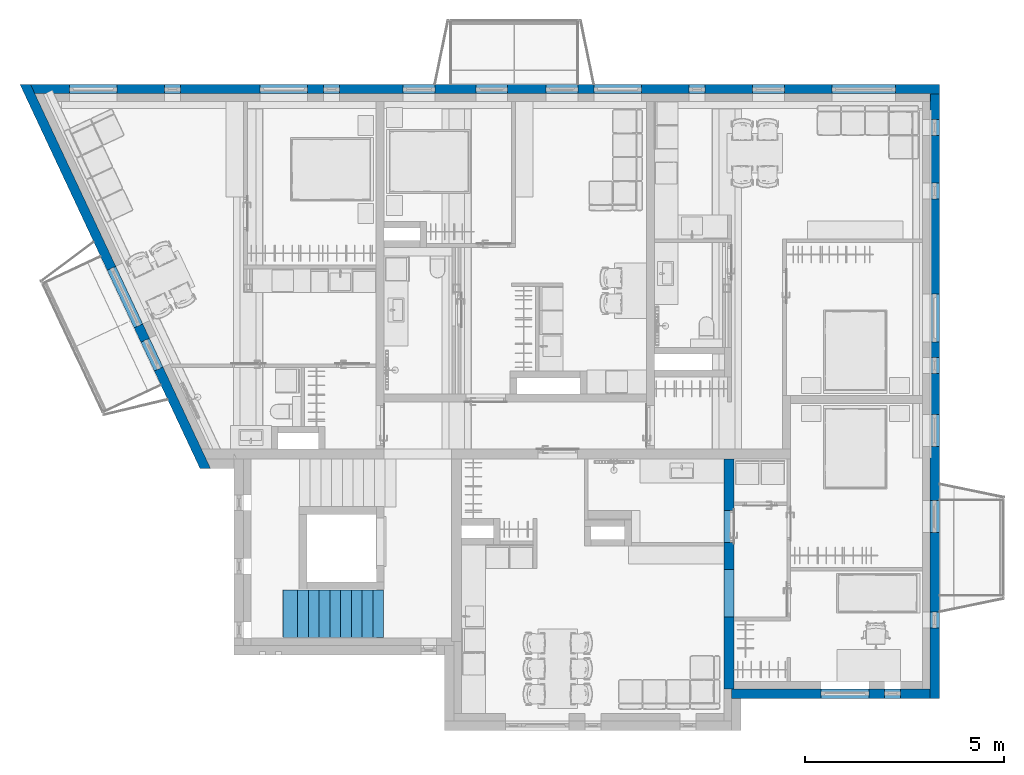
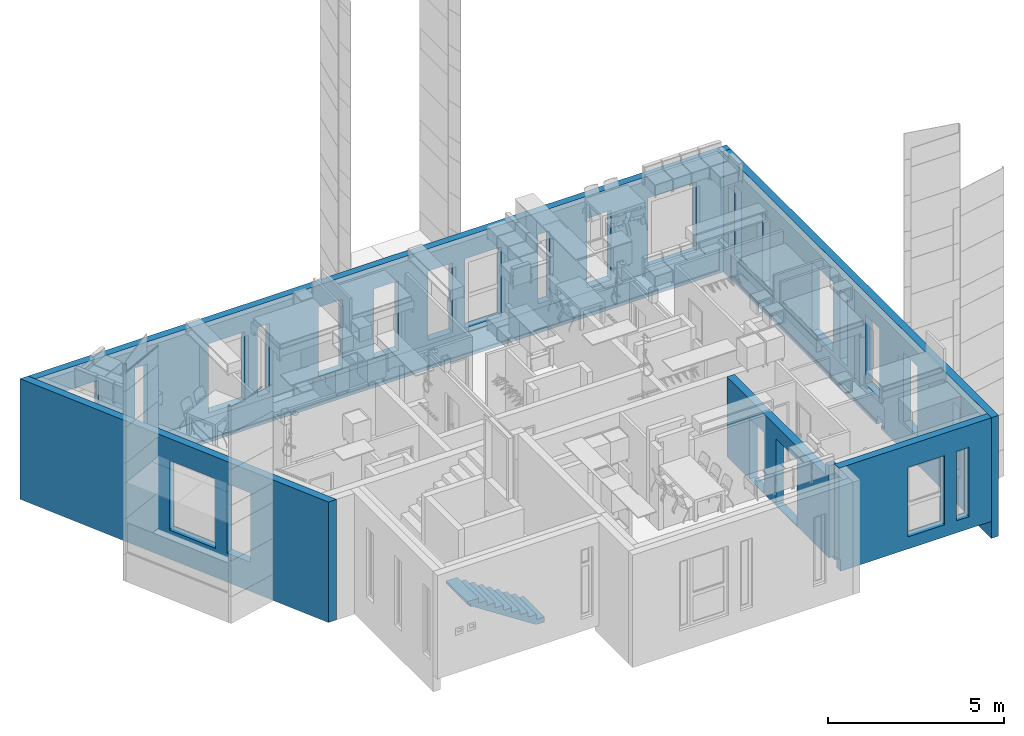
# One storey, part 41 of 125: 5 walls, 1 stair flight, 1 element without a shape of its own.
"""IFC2X3 building model written with IfcOpenShell, lengths in millimetres."""

from ifc_helpers import new_model, entity, si_unit, converted_unit, direction, frame, origin, place, context, subcontext, project, spatial, faceted_brep, material, layer, layer_set, type_object, element, aggregate, save


model = new_model("IFC2X3")

# Units and contexts
model_context = context("Model", 3, precision=0.01, world=origin(), true_north=direction((6.123233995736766e-17, 1.0)))
plan_context = context("Plan", 3, precision=0.01, world=origin(), true_north=direction((6.123233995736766e-17, 1.0)))
body_context = subcontext(model_context, "Body", "Model", "MODEL_VIEW")
ifc_project = project(units=[si_unit("LENGTHUNIT", "METRE", prefix="MILLI"), converted_unit("PLANEANGLEUNIT", "DEGREE", entity("IfcPlaneAngleMeasure", 0.017453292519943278), si_unit("PLANEANGLEUNIT", "RADIAN"), dimensions=[0, 0, 0, 0, 0, 0, 0]), si_unit("AREAUNIT", "SQUARE_METRE")], contexts=[model_context, plan_context])

# Site, building, storey
site_placement = place(None, origin())
site = spatial("IfcSite", under=ifc_project, at=site_placement, Name="Default", CompositionType="ELEMENT")
building_placement = place(site_placement, origin())
building = spatial("IfcBuilding", under=site, at=building_placement, CompositionType="ELEMENT")
storey_placement = place(building_placement, frame((0.0, 0.0, 3125.0)))
storey = spatial("IfcBuildingStorey", under=building, at=storey_placement, Name="2K", CompositionType="ELEMENT", Elevation=3125.0)

# Walls
ifc_material_1 = material(Name="_K. Väisviimistlus. Krohv. Valge")
ifc_layer_1 = layer(ifc_material_1, 5.0)
ifc_material_2 = material(Name="_K. Müüritis. Väikeplokk. Betoon-õõnesplokk")
ifc_layer_2 = layer(ifc_material_2, 240.0)
ifc_layer_3 = layer(ifc_material_1, 5.0)
ifc_layer_set_1 = layer_set([ifc_layer_1, ifc_layer_2, ifc_layer_3], Name="Basic Wall:SS-01.240")
wall_type_1 = type_object("IfcWallType", Name="Basic Wall:SS-01.240", PredefinedType="STANDARD", material=ifc_layer_set_1)
wall_1_placement = place(storey_placement, frame((12024.993534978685, 610.0, -155.0), z_axis=(0.0, 0.0, 1.0), x_axis=(0.0, 1.0, 0.0)))
element("IfcWall", 1, at=wall_1_placement, inside=storey, type_object=wall_type_1, Name="Basic Wall:SS-01.240", ObjectType="Basic Wall:SS-01.240", context=body_context, shape_type="Brep", body=[
    faceted_brep([(190.0, -125.0, 3325.0), (0.0, -125.0, 3325.0), (0.0, -125.0, 155.0), (0.0, -125.0, 0.0), (190.0, -125.0, 0.0), (190.0, -125.0, 134.99980163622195), (1717.9999594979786, -125.0, 134.99980163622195), (1809.9999594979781, -125.0, 134.99980163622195), (4617.999959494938, -125.0, 134.99980163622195), (4709.999959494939, -125.0, 134.99980163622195), (5789.999959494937, -125.0, 134.99980163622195), (5789.999959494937, -125.0, 2905.0), (4709.999959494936, -125.0, 2905.0), (4617.999959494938, -125.0, 2905.0), (1809.9999594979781, -125.0, 2905.0), (1717.9999594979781, -125.0, 2905.0), (190.0, -125.0, 2905.0), (1809.9999594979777, -125.0, 2455.0), (3009.9999594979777, -125.0, 2455.0), (3009.9999594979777, -125.0, 155.0), (1809.9999594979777, -125.0, 155.0), (3689.9976318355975, -125.0, 155.0), (3689.9976318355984, -125.0, 2255.0), (4489.997631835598, -125.0, 2255.0), (4489.997631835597, -125.0, 155.0), (0.0, 125.0, 3325.0), (190.0, 125.0, 3325.0), (190.0, 125.0, 2905.0), (3600.0, 125.0, 2905.0), (3692.0, 125.0, 2905.0), (5789.999959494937, 125.0, 2905.0), (5789.999959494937, 125.0, 134.99980163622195), (3692.0, 125.0, 134.99980163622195), (3600.0, 125.0, 134.99980163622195), (0.0, 125.0, 134.99980163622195), (0.0, 125.0, 155.0), (3009.999959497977, 125.0, 2455.0), (1809.9999594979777, 125.0, 2455.0), (1809.9999594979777, 125.0, 155.0), (3009.999959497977, 125.0, 155.0), (3689.997631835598, 125.0, 2255.0), (3689.997631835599, 125.0, 155.0), (4489.997631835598, 125.0, 155.0), (4489.997631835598, 125.0, 2255.0), (0.0, -65.00646502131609, 0.0), (190.0, -65.00646502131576, 0.0), (0.0, -65.00646502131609, 3325.0), (0.0, -120.0, 3325.0), (0.0, -65.00646502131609, 134.99980163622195), (190.0, -65.00646502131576, 134.99980163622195)], [[[0, 1, 2, 3, 4, 5, 6, 7, 8, 9, 10, 11, 12, 13, 14, 15, 16], [17, 18, 19, 20], [21, 22, 23, 24]], [[25, 26, 27, 28, 29, 30, 31, 32, 33, 34, 35], [36, 37, 38, 39], [40, 41, 42, 43]], [[4, 3, 44, 45]], [[25, 46, 47, 1, 0, 26]], [[26, 0, 16, 27]], [[11, 30, 29, 28, 27, 16, 15, 14, 13, 12]], [[1, 47, 46, 25, 35, 34, 48, 44, 3, 2]], [[17, 37, 36, 18]], [[19, 39, 38, 20]], [[37, 17, 20, 38]], [[18, 36, 39, 19]], [[21, 41, 40, 22]], [[41, 21, 24, 42]], [[42, 24, 23, 43]], [[22, 40, 43, 23]], [[30, 11, 10, 31]], [[5, 49, 48, 34, 33, 32, 31, 10, 9, 8, 7, 6]], [[49, 5, 4, 45]], [[48, 49, 45, 44]]]),
])
ifc_layer_4 = layer(ifc_material_1, 10.0)
ifc_material_3 = material(Name="_K. Soojustus. EPS Silver")
ifc_layer_5 = layer(ifc_material_3, 230.0)
ifc_layer_set_2 = layer_set([ifc_layer_4, ifc_layer_5], Name="Basic Wall:VS-01")
wall_type_2 = type_object("IfcWallType", Name="Basic Wall:VS-01", PredefinedType="STANDARD", material=ifc_layer_set_2)
wall_2_placement = place(storey_placement, frame((-1131.657141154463, 6114.067894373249, -1004.9997978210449), z_axis=(0.0, 0.0, 1.0), x_axis=(-0.4244338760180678, 0.905458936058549, 0.0)))
element("IfcWall", 2, at=wall_2_placement, inside=storey, type_object=wall_type_2, Name="Basic Wall:VS-01", ObjectType="Basic Wall:VS-01", context=body_context, shape_type="Brep", body=[
    faceted_brep([(0.0, -120.0, 0.0), (10674.145072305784, -120.0, 0.0), (10674.145072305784, -120.0, 4174.999797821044), (10420.130239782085, -120.0, 4174.999797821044), (10409.08611662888, -120.0, 4174.999797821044), (535.639972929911, -120.0, 4174.999797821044), (265.05895567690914, -120.0, 4174.999797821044), (0.0, -120.0, 4174.999797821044), (5618.086116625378, -120.0, 3404.9997978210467), (5618.086116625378, -120.0, 1004.9997978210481), (4018.0861166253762, -120.0, 1004.9997978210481), (4018.0861166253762, -120.0, 3404.9997978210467), (3618.0861166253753, -120.0, 3404.9997978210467), (3618.0861166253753, -120.0, 1004.9997978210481), (2818.0861166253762, -120.0, 1004.9997978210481), (2818.0861166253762, -120.0, 3404.9997978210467), (10309.222399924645, -120.0, 849.9997978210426), (10309.222399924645, -120.0, 99.99979782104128), (318.0375134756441, -120.0, 99.99979782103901), (318.0375134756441, -120.0, 849.9997978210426), (535.6399729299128, -120.0, 849.9997978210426), (10786.645072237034, 120.0, 0.0), (112.4999999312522, 120.0, 0.0), (112.4999999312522, 120.0, 4174.999797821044), (2818.1112739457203, 120.0, 4174.999797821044), (3618.111273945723, 120.0, 4174.999797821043), (4018.1112739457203, 120.0, 4174.999797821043), (5618.11127394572, 120.0, 4174.999797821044), (10786.645072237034, 120.0, 4174.999797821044), (5618.0861166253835, 120.0, 1004.9997978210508), (5618.0861166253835, 120.0, 3404.9997978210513), (4018.0861166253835, 120.0, 3404.9997978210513), (4018.0861166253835, 120.0, 1004.9997978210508), (3618.086116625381, 120.0, 1004.9997978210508), (3618.086116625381, 120.0, 3404.9997978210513), (2818.086116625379, 120.0, 3404.9997978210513), (2818.086116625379, 120.0, 1004.9997978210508), (5618.086116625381, 40.0, 1004.9997978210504), (5618.086116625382, 30.0, 1004.9997978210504), (4018.0861166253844, 30.0, 1004.999797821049), (4018.0861166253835, 40.0, 1004.999797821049), (3618.086116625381, 40.0, 1004.9997978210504), (3618.0861166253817, 30.0, 1004.9997978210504), (2818.08611662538, 30.0, 1004.999797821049), (2818.0861166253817, 40.0, 1004.999797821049), (10309.222463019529, -85.00078220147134, 109.99979782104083), (10309.222444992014, -95.00078220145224, 99.99979782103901), (10309.222463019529, -85.00078220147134, 849.9997978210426), (318.03757660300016, -84.98277058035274, 109.99979782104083), (318.03757660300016, -84.98277058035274, 849.9997978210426), (318.0375585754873, -94.98277058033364, 99.99979782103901)], [[[0, 1, 2, 3, 4, 5, 6, 7], [8, 9, 10, 11], [12, 13, 14, 15], [16, 17, 18, 19, 20]], [[21, 22, 23, 24, 25, 26, 27, 28], [29, 30, 31, 32], [33, 34, 35, 36]], [[1, 0, 22, 21]], [[7, 6, 5, 4, 3, 2, 28, 27, 26, 25, 24, 23]], [[2, 1, 21, 28]], [[0, 7, 23, 22]], [[30, 29, 37, 38, 9, 8]], [[30, 8, 11, 31]], [[31, 11, 10, 39, 40, 32]], [[37, 29, 32, 40, 39, 10, 9, 38]], [[34, 33, 41, 42, 13, 12]], [[34, 12, 15, 35]], [[35, 15, 14, 43, 44, 36]], [[41, 33, 36, 44, 43, 14, 13, 42]], [[45, 46, 17, 16, 47]], [[48, 49, 19, 18, 50]], [[46, 50, 18, 17]], [[46, 45, 48, 50]], [[45, 47, 49, 48]], [[49, 47, 16, 20, 19]]]),
])
wall_3_placement = place(storey_placement, frame((-5553.470835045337, 15710.0, -1010.0)))
element("IfcWall", 3, at=wall_3_placement, inside=storey, type_object=wall_type_2, Name="Basic Wall:VS-01", ObjectType="Basic Wall:VS-01", context=body_context, shape_type="Brep", body=[
    faceted_brep([(112.49999993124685, -120.0, 0.0), (22643.470835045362, -120.0, 0.0), (22883.470835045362, -120.0, 0.0), (22883.470835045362, -120.0, 4180.0), (22653.470835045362, -120.0, 4180.0), (22653.470835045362, -120.0, 855.0002021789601), (22643.470835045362, -120.0, 855.0002023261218), (22523.47083506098, -120.0, 855.0002040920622), (22523.47083506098, -120.0, 105.0), (779.891158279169, -120.0, 105.0), (779.891158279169, -120.0, 855.0005240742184), (112.49999993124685, -120.0, 855.0005338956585), (22883.470835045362, 120.0, 0.0), (0.0, 120.0, 0.0), (0.0, 120.0, 5.000202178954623), (0.0, 120.0, 4180.0), (498.4708350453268, 120.0, 4180.0), (898.4708350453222, 120.0, 4180.0), (2098.470835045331, 120.0, 4180.0), (3298.470835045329, 120.0, 4180.0), (6098.470835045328, 120.0, 4180.0), (7298.470835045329, 120.0, 4180.0), (7698.470835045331, 120.0, 4180.0), (8098.470835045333, 120.0, 4180.0), (9378.47083504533, 120.0, 4180.0), (10178.47083504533, 120.0, 4180.0), (11208.4708350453, 120.0, 4180.0), (12008.470835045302, 120.0, 4180.0), (12978.470835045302, 120.0, 4180.0), (13778.470835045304, 120.0, 4180.0), (14178.470835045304, 120.0, 4180.0), (15378.470835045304, 120.0, 4180.0), (17698.47083504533, 120.0, 4180.0), (18098.470835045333, 120.0, 4180.0), (18898.47083504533, 120.0, 4180.0), (20098.47083504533, 120.0, 4180.0), (20498.470835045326, 120.0, 4180.0), (20898.470835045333, 120.0, 4180.0), (22883.470835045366, 120.0, 4180.0), (3778.47083504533, 120.0, 1010.0), (3778.47083504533, 120.0, 3410.0), (3378.47083504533, 120.0, 3410.0), (3378.47083504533, 120.0, 1010.0), (6978.47083504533, 120.0, 1010.0), (6978.47083504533, 120.0, 3410.0), (5778.47083504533, 120.0, 3410.0), (5778.47083504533, 120.0, 1010.0), (2178.47083504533, 120.0, 1010.0), (2178.47083504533, 120.0, 3410.0), (978.4708350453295, 120.0, 3410.0), (978.4708350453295, 120.0, 1010.0), (7778.47083504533, 120.0, 1010.0), (7778.47083504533, 120.0, 3410.0), (7378.47083504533, 120.0, 3410.0), (7378.47083504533, 120.0, 1010.0), (10178.470835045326, 120.0, 1010.0), (10178.470835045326, 120.0, 3410.0), (9378.470835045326, 120.0, 3410.0), (9378.470835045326, 120.0, 1010.0), (12008.470835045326, 120.0, 1010.0), (12008.470835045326, 120.0, 3410.0), (11208.470835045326, 120.0, 3410.0), (11208.470835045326, 120.0, 1010.0), (13778.470835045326, 120.0, 1010.0), (13778.470835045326, 120.0, 3410.0), (12978.470835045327, 120.0, 3410.0), (12978.470835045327, 120.0, 1010.0), (15378.47083504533, 120.0, 1010.0), (15378.47083504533, 120.0, 3410.0), (14178.470835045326, 120.0, 3410.0), (14178.470835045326, 120.0, 1010.0), (16978.470835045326, 120.0, 1010.0), (16978.470835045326, 120.0, 3410.0), (16578.470835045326, 120.0, 3410.0), (16578.470835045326, 120.0, 1010.0), (18978.470835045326, 120.0, 1010.0), (18978.470835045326, 120.0, 3410.0), (18178.470835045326, 120.0, 3410.0), (18178.470835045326, 120.0, 1010.0), (21778.470835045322, 120.0, 1010.0), (21778.470835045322, 120.0, 3410.0), (20178.470835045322, 120.0, 3410.0), (20178.470835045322, 120.0, 1010.0), (107.81249993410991, -110.0, 4180.0), (317.65083984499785, -110.0, 4180.0), (498.47083504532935, -110.0, 4180.0), (898.4708350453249, -110.0, 4180.0), (2098.4708350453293, -110.0, 4180.0), (3298.4708350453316, -110.0, 4180.0), (6098.470835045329, -110.0, 4180.0), (7298.47083504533, -110.0, 4180.0), (7698.47083504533, -110.0, 4180.0), (8098.47083504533, -110.0, 4180.0), (9378.470835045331, -110.0, 4180.0), (10178.470835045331, -110.0, 4180.0), (11208.470835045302, -110.0, 4180.0), (12008.470835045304, -110.0, 4180.0), (12978.47083504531, -110.0, 4180.0), (13778.470835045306, -110.0, 4180.0), (14178.470835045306, -110.0, 4180.0), (15378.47083504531, -110.0, 4180.0), (17698.47083504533, -110.0, 4180.0), (18098.470835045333, -110.0, 4180.0), (18898.470835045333, -110.0, 4180.0), (20098.47083504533, -110.0, 4180.0), (20498.47083504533, -110.0, 4180.0), (20898.47083504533, -110.0, 4180.0), (22653.470835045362, -110.0, 4180.0), (107.81249993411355, -110.0, 855.0005338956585), (22653.470835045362, -110.0, 855.0002021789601), (317.6508398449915, -110.0, 855.0002021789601), (779.891158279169, -110.0, 855.0), (22523.47083506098, -110.0, 855.0002021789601), (3778.4708350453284, -110.0, 3410.0), (3778.470835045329, -110.0, 1010.0), (3378.4708350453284, -110.0, 1010.0), (3378.470835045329, -110.0, 3410.0), (6978.470835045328, -110.0, 3410.0), (6978.470835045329, -110.0, 1010.0), (5778.470835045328, -110.0, 1010.0), (5778.470835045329, -110.0, 3410.0), (2178.4708350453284, -110.0, 3410.0), (2178.470835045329, -110.0, 1010.0), (978.4708350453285, -110.0, 1010.0), (978.4708350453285, -110.0, 3410.0), (7778.470835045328, -110.0, 3410.0), (7778.470835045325, -110.0, 1010.0), (7378.470835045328, -110.0, 1010.0), (7378.470835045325, -110.0, 3410.0), (10178.470835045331, -110.0, 3410.0), (10178.470835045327, -110.0, 1010.0), (9378.47083504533, -110.0, 1010.0), (9378.470835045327, -110.0, 3410.0), (12008.47083504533, -110.0, 3410.0), (12008.470835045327, -110.0, 1010.0), (11208.470835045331, -110.0, 1010.0), (11208.470835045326, -110.0, 3410.0), (13778.470835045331, -110.0, 3410.0), (13778.470835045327, -110.0, 1010.0), (12978.470835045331, -110.0, 1010.0), (12978.470835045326, -110.0, 3410.0), (15378.470835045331, -110.0, 3410.0), (15378.470835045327, -110.0, 1010.0), (14178.470835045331, -110.0, 1010.0), (14178.470835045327, -110.0, 3410.0), (16978.470835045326, -110.0, 3410.0), (16978.470835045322, -110.0, 1010.0), (16578.470835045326, -110.0, 1010.0), (16578.470835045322, -110.0, 3410.0), (18978.470835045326, -110.0, 3410.0), (18978.47083504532, -110.0, 1010.0), (18178.470835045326, -110.0, 1010.0), (18178.47083504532, -110.0, 3410.0), (21778.470835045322, -110.0, 3410.0), (21778.47083504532, -110.0, 1010.0), (20178.470835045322, -110.0, 1010.0), (20178.47083504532, -110.0, 3410.0), (3778.470835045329, 40.0, 1010.0), (3778.470835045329, 30.0, 1010.0), (3378.470835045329, 30.0, 1010.0), (3378.470835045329, 40.0, 1010.0), (6978.470835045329, 40.0, 1010.0), (6978.470835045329, 30.0, 1010.0), (5778.470835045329, 30.0, 1010.0), (5778.47083504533, 40.0, 1010.0), (2178.4708350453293, 40.0, 1010.0), (2178.4708350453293, 30.0, 1010.0), (978.470835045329, 30.0, 1010.0), (978.4708350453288, 40.0, 1010.0), (7778.470835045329, 40.0, 1010.0), (7778.470835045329, 30.0, 1010.0), (7378.47083504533, 30.0, 1010.0), (7378.47083504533, 40.0, 1010.0), (10178.47083504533, 40.0, 1010.0), (10178.47083504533, 30.0, 1010.0), (9378.47083504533, 30.0, 1010.0), (9378.47083504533, 40.0, 1010.0), (12008.47083504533, 40.0, 1010.0), (12008.470835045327, 30.0, 1010.0), (11208.47083504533, 30.0, 1010.0), (11208.47083504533, 40.0, 1010.0), (13778.47083504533, 40.0, 1010.0), (13778.47083504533, 30.0, 1010.0), (12978.47083504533, 30.0, 1010.0), (12978.47083504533, 40.0, 1010.0), (15378.47083504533, 40.0, 1010.0), (15378.47083504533, 30.0, 1010.0), (14178.47083504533, 30.0, 1010.0), (14178.47083504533, 40.0, 1010.0), (16978.470835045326, 40.0, 1010.0), (16978.470835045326, 30.0, 1010.0), (16578.470835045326, 30.0, 1010.0), (16578.470835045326, 40.0, 1010.0), (18978.470835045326, 40.0, 1010.0), (18978.470835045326, 30.0, 1010.0), (18178.470835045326, 30.0, 1010.0), (18178.470835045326, 40.0, 1010.0), (21778.470835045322, 40.0, 1010.0), (21778.470835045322, 30.0, 1010.0), (20178.470835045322, 30.0, 1010.0), (20178.470835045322, 40.0, 1010.0), (22523.47083506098, -79.99974237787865, 855.0), (22523.47083506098, -79.99974237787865, 105.0), (779.8911582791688, -79.99974237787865, 105.0), (779.8911582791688, -79.99974237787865, 855.0)], [[[0, 1, 2, 3, 4, 5, 6, 7, 8, 9, 10, 11]], [[12, 13, 14, 15, 16, 17, 18, 19, 20, 21, 22, 23, 24, 25, 26, 27, 28, 29, 30, 31, 32, 33, 34, 35, 36, 37, 38], [39, 40, 41, 42], [43, 44, 45, 46], [47, 48, 49, 50], [51, 52, 53, 54], [55, 56, 57, 58], [59, 60, 61, 62], [63, 64, 65, 66], [67, 68, 69, 70], [71, 72, 73, 74], [75, 76, 77, 78], [79, 80, 81, 82]], [[2, 1, 0, 13, 12]], [[38, 37, 36, 35, 34, 33, 32, 31, 30, 29, 28, 27, 26, 25, 24, 23, 22, 21, 20, 19, 18, 17, 16, 15, 83, 84, 85, 86, 87, 88, 89, 90, 91, 92, 93, 94, 95, 96, 97, 98, 99, 100, 101, 102, 103, 104, 105, 106, 107, 4, 3]], [[15, 14, 13, 0, 11, 108, 83]], [[3, 2, 12, 38]], [[109, 107, 106, 105, 104, 103, 102, 101, 100, 99, 98, 97, 96, 95, 94, 93, 92, 91, 90, 89, 88, 87, 86, 85, 84, 83, 108, 110, 111, 112], [113, 114, 115, 116], [117, 118, 119, 120], [121, 122, 123, 124], [125, 126, 127, 128], [129, 130, 131, 132], [133, 134, 135, 136], [137, 138, 139, 140], [141, 142, 143, 144], [145, 146, 147, 148], [149, 150, 151, 152], [153, 154, 155, 156]], [[108, 11, 10, 111, 110]], [[107, 109, 5, 4]], [[157, 158, 114, 113, 40, 39]], [[41, 40, 113, 116]], [[159, 160, 42, 41, 116, 115]], [[158, 157, 39, 42, 160, 159, 115, 114]], [[161, 162, 118, 117, 44, 43]], [[45, 44, 117, 120]], [[163, 164, 46, 45, 120, 119]], [[164, 163, 119, 118, 162, 161, 43, 46]], [[165, 166, 122, 121, 48, 47]], [[49, 48, 121, 124]], [[167, 168, 50, 49, 124, 123]], [[168, 167, 123, 122, 166, 165, 47, 50]], [[52, 51, 169, 170, 126, 125]], [[53, 52, 125, 128]], [[54, 53, 128, 127, 171, 172]], [[169, 51, 54, 172, 171, 127, 126, 170]], [[56, 55, 173, 174, 130, 129]], [[57, 56, 129, 132]], [[58, 57, 132, 131, 175, 176]], [[173, 55, 58, 176, 175, 131, 130, 174]], [[60, 59, 177, 178, 134, 133]], [[61, 60, 133, 136]], [[62, 61, 136, 135, 179, 180]], [[177, 59, 62, 180, 179, 135, 134, 178]], [[64, 63, 181, 182, 138, 137]], [[65, 64, 137, 140]], [[66, 65, 140, 139, 183, 184]], [[181, 63, 66, 184, 183, 139, 138, 182]], [[68, 67, 185, 186, 142, 141]], [[69, 68, 141, 144]], [[70, 69, 144, 143, 187, 188]], [[185, 67, 70, 188, 187, 143, 142, 186]], [[72, 71, 189, 190, 146, 145]], [[73, 72, 145, 148]], [[74, 73, 148, 147, 191, 192]], [[189, 71, 74, 192, 191, 147, 146, 190]], [[76, 75, 193, 194, 150, 149]], [[77, 76, 149, 152]], [[78, 77, 152, 151, 195, 196]], [[193, 75, 78, 196, 195, 151, 150, 194]], [[80, 79, 197, 198, 154, 153]], [[81, 80, 153, 156]], [[82, 81, 156, 155, 199, 200]], [[197, 79, 82, 200, 199, 155, 154, 198]], [[201, 202, 8, 7, 112]], [[203, 204, 111, 10, 9]], [[204, 201, 112, 111]], [[202, 203, 9, 8]], [[202, 201, 204, 203]], [[5, 109, 112, 7, 6]]]),
])
wall_4_placement = place(storey_placement, frame((17210.0, 15590.0, -1010.0), z_axis=(0.0, 0.0, 1.0), x_axis=(0.0, -1.0, 0.0)))
element("IfcWall", 4, at=wall_4_placement, inside=storey, type_object=wall_type_2, Name="Basic Wall:VS-01", ObjectType="Basic Wall:VS-01", context=body_context, shape_type="Brep", body=[
    faceted_brep([(1040.0, -120.0, 3410.0), (1040.0, -120.0, 1010.0), (640.0, -120.0, 1010.0), (640.0, -120.0, 3410.0), (2640.0, -120.0, 3410.0), (2640.0, -120.0, 1010.0), (2240.0, -120.0, 1010.0), (2240.0, -120.0, 3410.0), (7040.0, -120.0, 3410.0), (7040.0, -120.0, 1010.0), (6640.0, -120.0, 1010.0), (6640.0, -120.0, 3410.0), (13440.0, -120.0, 3410.0), (13440.0, -120.0, 1010.0), (13040.0, -120.0, 1010.0), (13040.0, -120.0, 3410.0), (6240.0, -120.0, 3410.0), (6240.0, -120.0, 1010.0), (5040.0, -120.0, 1010.0), (5040.0, -120.0, 3410.0), (8870.0, -120.0, 3410.0), (8870.0, -120.0, 1010.0), (8070.0, -120.0, 1010.0), (8070.0, -120.0, 3410.0), (11040.0, -120.0, 3410.0), (11040.0, -120.0, 1010.0), (10240.0, -120.0, 1010.0), (10240.0, -120.0, 3410.0), (15220.0, -120.0, 0.0), (15220.0, -120.0, 590.0), (15220.0, -120.0, 4180.0), (14980.0, -120.0, 4180.0), (190.0, -120.0, 4180.0), (190.0, -120.0, 855.0002021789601), (0.0, -120.0, 855.0002021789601), (0.0, -120.0, 0.0), (8704.999999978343, -120.0, 0.0), (8704.999999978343, -120.0, 105.0), (399.98287995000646, -120.0, 105.0), (399.98287995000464, -120.0, 855.0), (9164.998575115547, -120.0, 855.0), (9164.998575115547, -120.0, 105.0), (8944.999999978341, -120.0, 105.0), (8944.999999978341, -120.0, 0.0), (9184.999999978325, -120.0, 0.0), (11790.000005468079, -120.0, 0.0), (12190.000005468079, -120.0, 0.0), (14980.0, -120.0, 0.0), (0.0, 120.0, 4180.0), (1440.0, 120.0, 4180.0), (1840.0, 120.0, 4180.0), (5040.0, 120.0, 4180.0), (5440.0, 120.0, 4180.0), (5840.0, 120.0, 4180.0), (7040.0, 120.0, 4180.0), (8070.0, 120.0, 4180.0), (8870.0, 120.0, 4180.0), (10240.0, 120.0, 4180.0), (11040.0, 120.0, 4180.0), (13840.0, 120.0, 4180.0), (14240.0, 120.0, 4180.0), (15220.0, 120.0, 4180.0), (15220.0, 120.0, 0.0), (14980.0, 120.0, 0.0), (12190.000005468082, 120.0, 0.0), (11790.000005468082, 120.0, 0.0), (8944.999999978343, 120.0, 0.0), (8944.999999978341, 120.0, 285.9998016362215), (8704.999999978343, 120.0, 285.9998016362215), (8704.999999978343, 120.0, 0.0), (0.0, 120.0, 0.0), (1040.0, 120.0, 1010.0), (1040.0, 120.0, 3410.0), (640.0, 120.0, 3410.0), (640.0, 120.0, 1010.0), (2640.0, 120.0, 1010.0), (2640.0, 120.0, 3410.0), (2240.0, 120.0, 3410.0), (2240.0, 120.0, 1010.0), (7040.0, 120.0, 1010.0), (7040.0, 120.0, 3410.0), (6640.0, 120.0, 3410.0), (6640.0, 120.0, 1010.0), (13440.0, 120.0, 1010.0), (13440.0, 120.0, 3410.0), (13040.0, 120.0, 3410.0), (13040.0, 120.0, 1010.0), (6240.0, 120.0, 1010.0), (6240.0, 120.0, 3410.0), (5040.0, 120.0, 3410.0), (5040.0, 120.0, 1010.0), (8870.0, 120.0, 1010.0), (8870.0, 120.0, 3410.0), (8070.0, 120.0, 3410.0), (8070.0, 120.0, 1010.0), (11040.0, 120.0, 1010.0), (11040.0, 120.0, 3410.0), (10240.0, 120.0, 3410.0), (10240.0, 120.0, 1010.0), (0.0, -110.0, 4180.0), (190.0, -110.0, 4180.0), (0.0, -110.0, 855.0002021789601), (190.0, -110.0, 855.0002021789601), (1040.0, 40.0, 1010.0), (1040.0, 30.0, 1010.0), (640.0, 30.0, 1010.0), (640.0, 40.0, 1010.0), (2640.0, 40.0, 1010.0), (2640.0, 30.0, 1010.0), (2240.0, 30.0, 1010.0), (2240.0, 40.0, 1010.0), (7040.0, 40.0, 1010.0), (7040.0, 30.0, 1010.0), (6640.0, 30.0, 1010.0), (6640.0, 40.0, 1010.0), (13440.0, 40.0, 1010.0), (13440.0, 30.0, 1010.0), (13040.0, 30.0, 1010.0), (13040.0, 40.0, 1010.0), (6240.0, 40.0, 1010.0), (6240.0, 30.0, 1010.0), (5040.0, 30.0, 1010.0), (5040.0, 40.0, 1010.0), (8870.0, 40.0, 1010.0), (8870.0, 30.0, 1010.0), (8070.0, 30.0, 1010.0), (8070.0, 40.0, 1010.0), (11040.0, 40.0, 1010.0), (11040.0, 30.0, 1010.0), (10240.0, 30.0, 1010.0), (10240.0, 40.0, 1010.0), (8944.999999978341, -85.0, 0.0), (8944.999999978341, -95.00000416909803, 105.0), (8944.999999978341, -85.00000416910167, 115.0), (8944.999999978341, -85.00000416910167, 285.99980163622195), (8704.999999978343, -85.00000416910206, 285.9998016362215), (8704.999999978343, -85.00000416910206, 115.0), (8704.999999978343, -95.00000416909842, 105.0), (9164.998575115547, -85.00000416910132, 115.0), (9164.998575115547, -95.00000416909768, 105.0), (9164.998575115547, -85.00000416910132, 855.0), (399.98287995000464, -85.00000416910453, 115.0), (399.98287995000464, -85.00000416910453, 855.0), (399.98287995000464, -95.00000416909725, 105.0)], [[[0, 1, 2, 3], [4, 5, 6, 7], [8, 9, 10, 11], [12, 13, 14, 15], [16, 17, 18, 19], [20, 21, 22, 23], [24, 25, 26, 27], [28, 29, 30, 31, 32, 33, 34, 35, 36, 37, 38, 39, 40, 41, 42, 43, 44, 45, 46, 47]], [[48, 49, 50, 51, 52, 53, 54, 55, 56, 57, 58, 59, 60, 61, 62, 63, 64, 65, 66, 67, 68, 69, 70], [71, 72, 73, 74], [75, 76, 77, 78], [79, 80, 81, 82], [83, 84, 85, 86], [87, 88, 89, 90], [91, 92, 93, 94], [95, 96, 97, 98]], [[35, 70, 69, 36]], [[61, 60, 59, 58, 57, 56, 55, 54, 53, 52, 51, 50, 49, 48, 99, 100, 32, 31, 30]], [[48, 70, 35, 34, 101, 99]], [[100, 102, 33, 32]], [[33, 102, 101, 34]], [[102, 100, 99, 101]], [[28, 62, 61, 30, 29]], [[103, 104, 1, 0, 72, 71]], [[72, 0, 3, 73]], [[105, 106, 74, 73, 3, 2]], [[104, 103, 71, 74, 106, 105, 2, 1]], [[107, 108, 5, 4, 76, 75]], [[76, 4, 7, 77]], [[109, 110, 78, 77, 7, 6]], [[108, 107, 75, 78, 110, 109, 6, 5]], [[111, 112, 9, 8, 80, 79]], [[80, 8, 11, 81]], [[113, 114, 82, 81, 11, 10]], [[112, 111, 79, 82, 114, 113, 10, 9]], [[115, 116, 13, 12, 84, 83]], [[84, 12, 15, 85]], [[117, 118, 86, 85, 15, 14]], [[116, 115, 83, 86, 118, 117, 14, 13]], [[119, 120, 17, 16, 88, 87]], [[88, 16, 19, 89]], [[121, 122, 90, 89, 19, 18]], [[120, 119, 87, 90, 122, 121, 18, 17]], [[123, 124, 21, 20, 92, 91]], [[92, 20, 23, 93]], [[125, 126, 94, 93, 23, 22]], [[124, 123, 91, 94, 126, 125, 22, 21]], [[127, 128, 25, 24, 96, 95]], [[96, 24, 27, 97]], [[129, 130, 98, 97, 27, 26]], [[128, 127, 95, 98, 130, 129, 26, 25]], [[67, 66, 131, 43, 42, 132, 133, 134]], [[69, 68, 135, 136, 137, 37, 36]], [[68, 67, 134, 135]], [[138, 139, 41, 40, 140]], [[141, 142, 39, 38, 143]], [[41, 139, 132, 42]], [[139, 138, 133, 132]], [[138, 140, 142, 141, 136, 135, 134, 133]], [[142, 140, 40, 39]], [[141, 143, 137, 136]], [[143, 38, 37, 137]], [[62, 28, 47, 46, 45, 44, 43, 131, 66, 65, 64, 63]]], outer=[[False, False, False, False, False, False, False, True], [True, False, False, False, False, False, False, False], [True], [True], [True], [True], [True], [True], [True], [True], [True], [True], [True], [True], [True], [True], [True], [True], [True], [True], [True], [True], [True], [True], [True], [True], [True], [True], [True], [True], [True], [True], [True], [True], [True], [True], [True], [True], [True], [True], [True], [True], [True], [True], [True], [True], [True], [True], [True]]),
])
wall_5_placement = place(storey_placement, frame((17090.0, 490.0, -420.0), z_axis=(0.0, 0.0, 1.0), x_axis=(-1.0, 0.0, 0.0)))
element("IfcWall", 5, at=wall_5_placement, inside=storey, type_object=wall_type_2, Name="Basic Wall:VS-01", ObjectType="Basic Wall:VS-01", context=body_context, shape_type="Brep", body=[
    faceted_brep([(1140.0, -120.0, 2820.0), (1140.0, -120.0, 420.0), (740.0, -120.0, 420.0), (740.0, -120.0, 2820.0), (2740.0, -120.0, 2820.0), (2740.0, -120.0, 420.0), (1540.0, -120.0, 420.0), (1540.0, -120.0, 2820.0), (0.0, -120.0, 0.0), (4940.006465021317, -120.0, 0.0), (4940.006465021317, -120.0, 420.0), (5000.0, -120.0, 420.0), (5000.0, -120.0, 3590.0), (4940.006465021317, -120.0, 3590.0), (3500.0, -120.0, 3590.0), (3100.0, -120.0, 3590.0), (2700.0, -120.0, 3590.0), (1500.0, -120.0, 3590.0), (190.0, -120.0, 3590.0), (0.0, -120.0, 3590.0), (0.0, -120.0, 265.0002021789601), (1140.0, 120.0, 420.0), (1140.0, 120.0, 2820.0), (740.0, 120.0, 2820.0), (740.0, 120.0, 420.0), (2740.0, 120.0, 420.0), (2740.0, 120.0, 2820.0), (1540.0, 120.0, 2820.0), (1540.0, 120.0, 420.0), (4940.006465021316, 120.0, 0.0), (0.0, 120.0, 0.0), (0.0, 120.0, 3590.0), (1500.0, 120.0, 3590.0), (2700.0, 120.0, 3590.0), (3100.0, 120.0, 3590.0), (3500.0, 120.0, 3590.0), (4760.0, 120.0, 3590.0), (5000.0, 120.0, 3590.0), (5000.0, 120.0, 420.0), (4940.006465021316, 120.0, 420.0), (1140.0, 40.0, 420.0), (1140.0, 30.0, 420.0), (740.0, 30.0, 420.0), (740.0, 40.0, 420.0), (2740.0, 40.0, 420.0), (2740.0, 30.0, 420.0), (1540.0, 30.0, 420.0), (1540.0, 40.0, 420.0)], [[[0, 1, 2, 3], [4, 5, 6, 7], [8, 9, 10, 11, 12, 13, 14, 15, 16, 17, 18, 19, 20]], [[21, 22, 23, 24], [25, 26, 27, 28], [29, 30, 31, 32, 33, 34, 35, 36, 37, 38, 39]], [[9, 8, 30, 29]], [[19, 18, 17, 16, 15, 14, 13, 12, 37, 36, 35, 34, 33, 32, 31]], [[11, 10, 39, 38]], [[9, 29, 39, 10]], [[37, 12, 11, 38]], [[30, 8, 20, 19, 31]], [[40, 41, 1, 0, 22, 21]], [[22, 0, 3, 23]], [[42, 43, 24, 23, 3, 2]], [[41, 40, 21, 24, 43, 42, 2, 1]], [[44, 45, 5, 4, 26, 25]], [[26, 4, 7, 27]], [[46, 47, 28, 27, 7, 6]], [[45, 44, 25, 28, 47, 46, 6, 5]]], outer=[[False, False, True], [False, False, True], [True], [True], [True], [True], [True], [True], [True], [True], [True], [True], [True], [True], [True], [True]]),
])

# Stair, stair flight
type_product = type_object("IfcTypeProduct", Name="Precast Stair:Default. Monteeritav raudbetoontrepp")
stair_placement = place(storey_placement, origin())
stair = element("IfcStair", 6, at=stair_placement, inside=storey, type_object=type_product, Name="Precast Stair:Stair", ObjectType="Precast Stair:Default. Monteeritav raudbetoontrepp", ShapeType="HALF_TURN_STAIR")
ifc_material_4 = material(Name="Temp. Betoon. Armeeritud. Kohtvalu")
stair_flight_type = type_object("IfcStairFlightType", Name="Monolithic Run:Default Run. Raudbetoon", PredefinedType="STRAIGHT")
stair_flight_placement = place(stair_placement, frame((802.4937255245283, 1905.0014695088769, 0.0)))
stair_flight = element("IfcStairFlight", 7, at=stair_flight_placement, type_object=stair_flight_type, material=ifc_material_4, Name="Precast Stair:Stair:508931 Run 1", ObjectType="Monolithic Run:Default Run. Raudbetoon", NumberOfRiser=9, NumberOfTreads=9, RiserHeight=0.5777923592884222, TreadLength=0.8858267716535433, context=body_context, shape_type="Brep", body=[
    faceted_brep([(2260.0, 0.0, 156.1111111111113), (2530.0, 0.0, 156.1111111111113), (2530.0, 1200.0, 156.1111111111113), (2260.0, 1200.0, 156.1111111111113), (2260.0, 0.0, -20.0), (2530.0, 0.0, -20.0), (2530.0, 1200.0, -20.0), (2260.0, 1200.0, -20.0), (1990.0, 0.0, 332.2222222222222), (2260.0, 0.0, 332.2222222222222), (2260.0, 1200.0, 332.2222222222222), (1990.0, 1200.0, 332.2222222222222), (1990.0, 0.0, 153.1340624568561), (2255.435818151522, 0.0, -20.0), (2255.4358181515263, 1200.0, -20.0), (1990.0, 1200.0, 153.13406245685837), (1720.0, 0.0, 508.3333333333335), (1990.0, 0.0, 508.3333333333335), (1990.0, 1200.0, 508.3333333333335), (1720.0, 1200.0, 508.3333333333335), (1720.0, 0.0, 329.2451735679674), (1720.0, 1200.0, 329.24517356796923), (1450.0, 0.0, 684.4444444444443), (1720.0, 0.0, 684.4444444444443), (1720.0, 1200.0, 684.4444444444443), (1450.0, 1200.0, 684.4444444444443), (1450.0, 0.0, 505.3562846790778), (1450.0, 1200.0, 505.35628467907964), (1180.0, 0.0, 860.5555555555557), (1450.0, 0.0, 860.5555555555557), (1450.0, 1200.0, 860.5555555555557), (1180.0, 1200.0, 860.5555555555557), (1180.0, 0.0, 681.4673957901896), (1180.0, 1200.0, 681.4673957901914), (910.0, 0.0, 1036.666666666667), (1180.0, 0.0, 1036.666666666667), (1180.0, 1200.0, 1036.666666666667), (910.0, 1200.0, 1036.666666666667), (910.0, 0.0, 857.5785069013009), (910.0, 1200.0, 857.5785069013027), (640.0, 0.0, 1212.7777777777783), (910.0, 0.0, 1212.7777777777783), (910.0, 1200.0, 1212.7777777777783), (640.0, 1200.0, 1212.7777777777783), (640.0, 0.0, 1033.6896180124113), (640.0, 1200.0, 1033.6896180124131), (370.0, 0.0, 1388.8888888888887), (640.0, 0.0, 1388.8888888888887), (640.0, 1200.0, 1388.8888888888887), (370.0, 1200.0, 1388.8888888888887), (370.0, 0.0, 1209.8007291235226), (370.0, 1200.0, 1209.8007291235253), (162.72288439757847, 0.0, 1345.0), (162.7228843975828, 1200.0, 1345.0), (100.0, 0.0, 1345.0), (100.0, 1200.0, 1345.0), (0.0, 1200.0, 1465.0), (100.0, 1200.0, 1465.0), (100.0, 0.0, 1465.0), (0.0, 0.0, 1465.0), (0.0, 0.0, 1565.0), (0.0, 1200.0, 1565.0), (370.0, 0.0, 1565.0), (370.0, 1200.0, 1565.0)], [[[0, 1, 2, 3]], [[1, 0, 4, 5]], [[2, 1, 5, 6]], [[3, 2, 6, 7]], [[8, 9, 10, 11]], [[4, 0, 9, 8, 12, 13]], [[0, 3, 10, 9]], [[3, 7, 14, 15, 11, 10]], [[16, 17, 18, 19]], [[17, 16, 20, 12, 8]], [[8, 11, 18, 17]], [[19, 18, 11, 15, 21]], [[22, 23, 24, 25]], [[23, 22, 26, 20, 16]], [[16, 19, 24, 23]], [[25, 24, 19, 21, 27]], [[28, 29, 30, 31]], [[29, 28, 32, 26, 22]], [[22, 25, 30, 29]], [[31, 30, 25, 27, 33]], [[34, 35, 36, 37]], [[35, 34, 38, 32, 28]], [[28, 31, 36, 35]], [[37, 36, 31, 33, 39]], [[40, 41, 42, 43]], [[41, 40, 44, 38, 34]], [[34, 37, 42, 41]], [[43, 42, 37, 39, 45]], [[46, 47, 48, 49]], [[47, 46, 50, 44, 40]], [[40, 43, 48, 47]], [[49, 48, 43, 45, 51]], [[5, 4, 13, 14, 7, 6]], [[52, 53, 51, 45, 39, 33, 27, 21, 15, 14, 13, 12, 20, 26, 32, 38, 44, 50]], [[53, 52, 54, 55]], [[56, 57, 58, 59]], [[56, 59, 60, 61]], [[62, 63, 61, 60]], [[46, 62, 60, 59, 58, 54, 52, 50]], [[46, 49, 63, 62]], [[61, 63, 49, 51, 53, 55, 57, 56]], [[55, 54, 58, 57]]]),
])
aggregate(stair, [stair_flight])

save(model, "model.ifc")
